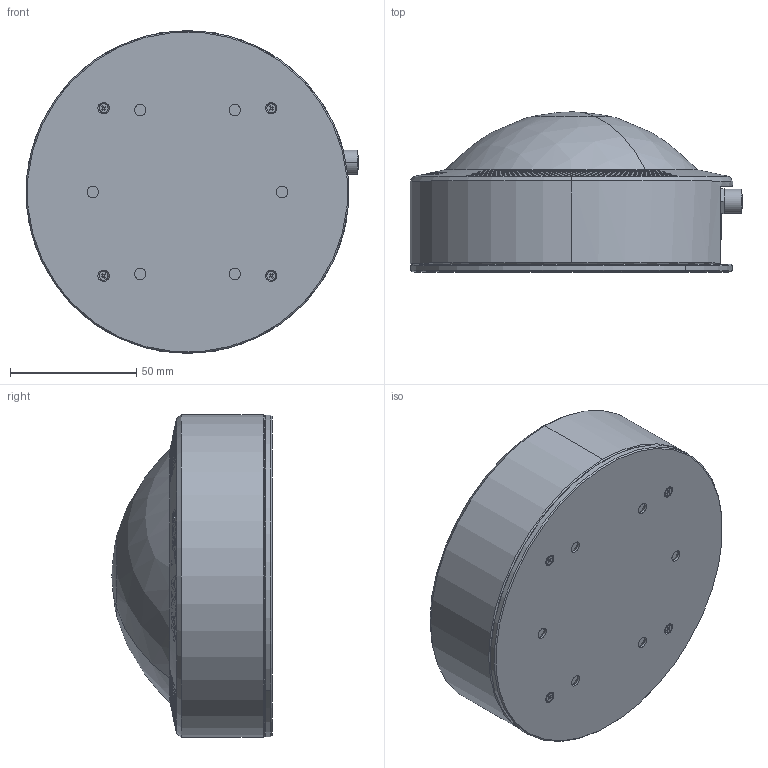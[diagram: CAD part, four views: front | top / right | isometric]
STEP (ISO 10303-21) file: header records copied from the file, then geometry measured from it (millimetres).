
FILE_DESCRIPTION (( 'STEP AP203' ), '1' );
FILE_NAME ('Lens VPS.STEP', '2021-04-09T02:42:29', ( 'Jiaxin' ), ( '' ), 'SwSTEP 2.0', 'SolidWorks 2016', '' );
FILE_SCHEMA (( 'CONFIG_CONTROL_DESIGN' ));
Length unit declared in the file: millimetre
Products named in the file (1): Lens VPS
Bounding box: 131.6 x 63.5 x 128 mm (x, y, z)
Volume: 526541.5 mm3; surface area: 65616.3 mm2
Topology: 2 solids, 11 shells, 2301 faces, 4858 edges, 3214 vertices
Faces by surface type: cylinder 1355, cone 660, plane 177, bspline 101, sphere 8
Entity records: 84762 total; most frequent: CARTESIAN_POINT 40303, ORIENTED_EDGE 9712, DIRECTION 6919, EDGE_CURVE 4856, VERTEX_POINT 3214, EDGE_LOOP 2940, B_SPLINE_CURVE_WITH_KNOTS 2711, AXIS2_PLACEMENT_3D 2584
